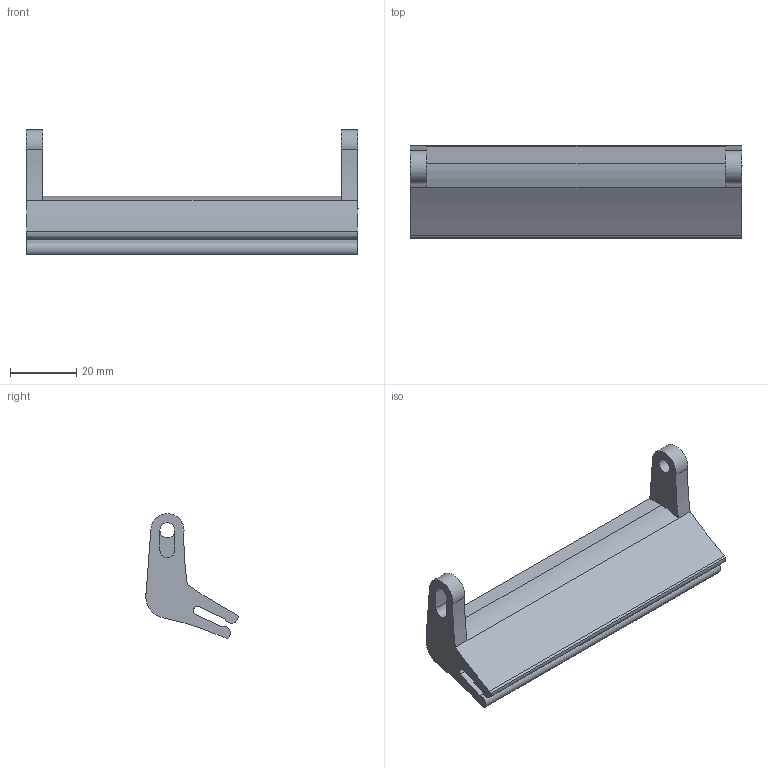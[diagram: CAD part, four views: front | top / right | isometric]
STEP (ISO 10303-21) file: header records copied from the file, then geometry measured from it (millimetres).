
FILE_DESCRIPTION(/* description */ (''),/* implementation_level */ '2;1');
FILE_NAME(/* name */ '/Users/lars/Downloads/LED Martin Render/Halter.step',/* time_stamp */ '2021-09-20T21:31:49+02:00',/* author */ (''),/* organization */ (''),/* preprocessor_version */ 'ST-DEVELOPER v18.1',/* originating_system */ 'Autodesk Translation Framework v10.10.0.1391',/* authorisation */ '');
FILE_SCHEMA (('AUTOMOTIVE_DESIGN { 1 0 10303 214 3 1 1 }'));
Length unit declared in the file: millimetre
Products named in the file (1): Holder
Bounding box: 100 x 27.76 x 37.53 mm (x, y, z)
Volume: 24765 mm3; surface area: 12455.5 mm2
Topology: 1 solids, 1 shells, 27 faces, 73 edges, 48 vertices
Faces by surface type: cylinder 14, plane 12, bspline 1
Full cylindrical faces by diameter (mm): 4.5 x1
Entity records: 1167 total; most frequent: CARTESIAN_POINT 420, DIRECTION 151, ORIENTED_EDGE 146, EDGE_CURVE 73, AXIS2_PLACEMENT_3D 55, VERTEX_POINT 48, LINE 41, VECTOR 41
